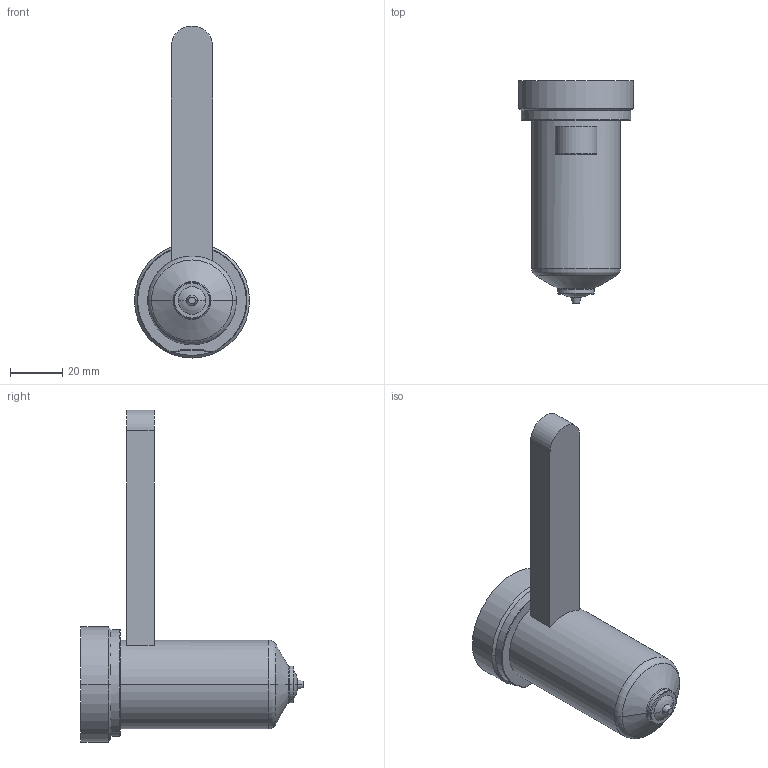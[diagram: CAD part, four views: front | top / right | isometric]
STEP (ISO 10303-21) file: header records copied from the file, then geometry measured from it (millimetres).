
FILE_DESCRIPTION((''),'2;1');
FILE_NAME('EO10_VG-BL_STD_070_COT','2024-02-19T13:08:39',('sundharh'),(''),'CREO PARAMETRIC BY PTC INC, 2023154','CREO PARAMETRIC BY PTC INC, 2023154','');
FILE_SCHEMA(('CONFIG_CONTROL_DESIGN'));
Length unit declared in the file: millimetre
Products named in the file (1): EO10_VG-BL_STD_070_COT
Bounding box: 44 x 85 x 127 mm (x, y, z)
Volume: 93169 mm3; surface area: 16044.4 mm2
Topology: 1 solids, 1 shells, 38 faces, 81 edges, 48 vertices
Faces by surface type: cylinder 11, plane 10, torus 9, cone 6, sphere 2
Entity records: 1143 total; most frequent: CARTESIAN_POINT 255, DIRECTION 199, ORIENTED_EDGE 162, AXIS2_PLACEMENT_3D 86, EDGE_CURVE 81, VERTEX_POINT 48, CIRCLE 48, EDGE_LOOP 41
